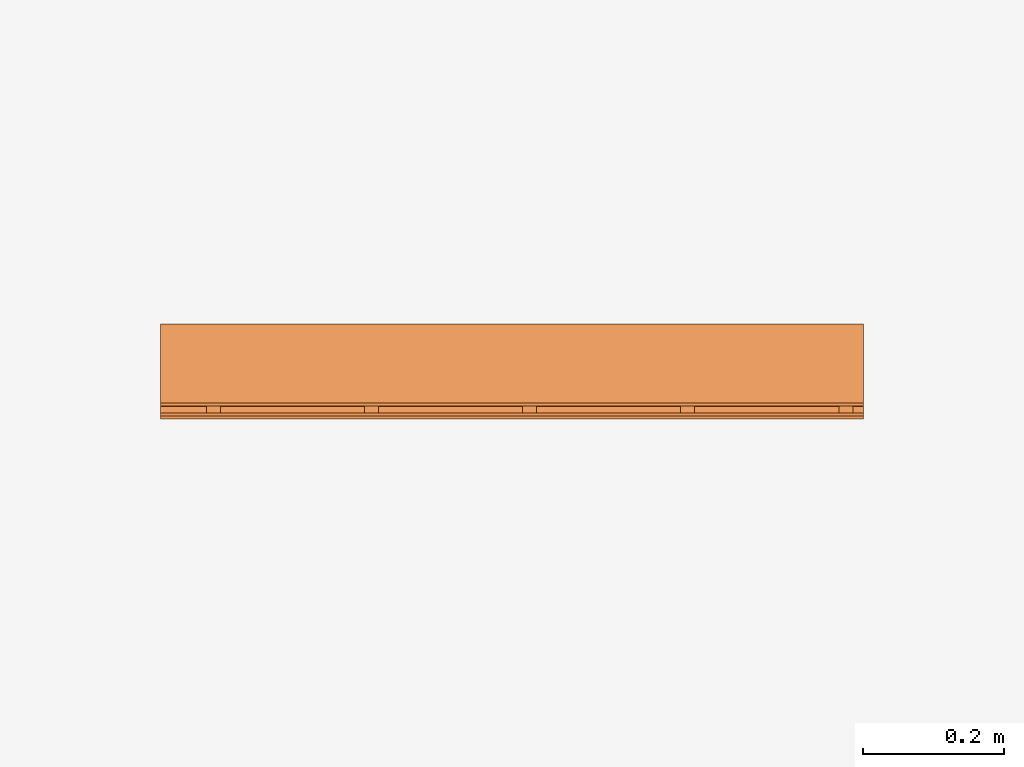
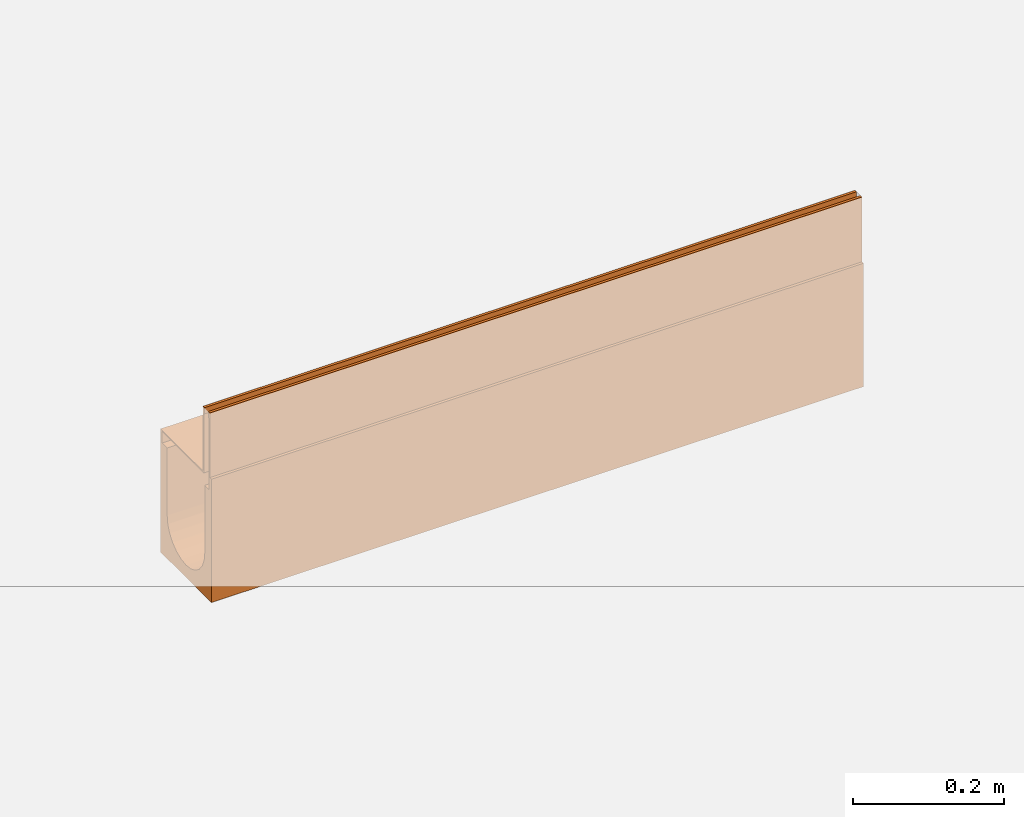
# One storey, part 2 of 2: 1 proxy.
"""IFC2X3 building model written with IfcOpenShell, lengths in millimetres."""

from ifc_helpers import new_model, entity, si_unit, converted_unit, direction, frame, origin, place, context, subcontext, project, spatial, faceted_brep, source, transform, mapped, material, material_list, element, save


model = new_model("IFC2X3")

# Units and contexts
model_context = context("Model", 3, precision=1e-06, world=origin(), true_north=direction((2.0, 6.12303176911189e-17, 1.0)))
context_of_model = context(None, 3, precision=1e-06, world=origin(), true_north=direction((2.0, 6.12303176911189e-17, 1.0)))
body_context = subcontext(model_context, "Body", "Model", "MODEL_VIEW")
ifc_project = project(units=[si_unit("LENGTHUNIT", "METRE", prefix="MILLI"), si_unit("AREAUNIT", "SQUARE_METRE", prefix="MILLI"), si_unit("VOLUMEUNIT", "CUBIC_METRE", prefix="MILLI"), converted_unit("PLANEANGLEUNIT", "DEGREE", entity("IfcRatioMeasure", 0.0174532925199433), si_unit("PLANEANGLEUNIT", "RADIAN"), dimensions=[0, 0, 0, 0, 0, 0, 0]), si_unit("TIMEUNIT", "SECOND")], contexts=[model_context, context_of_model])

# Site, building, storey
site_placement = place(None, origin())
site = spatial("IfcSite", under=ifc_project, at=site_placement, Name="Default", CompositionType="ELEMENT")
building_placement = place(site_placement, origin())
building = spatial("IfcBuilding", under=site, at=building_placement, CompositionType="ELEMENT")
storey_placement = place(building_placement, origin())
storey = spatial("IfcBuildingStorey", under=building, at=storey_placement, Name="Level 1", CompositionType="ELEMENT", Elevation=0.0)

# Proxy
ifc_material_1 = material(Name="Steel, Galvanized")
ifc_material_2 = material(Name="Vienite® Synthetic Resin Concrete")
ifc_material_list = material_list([ifc_material_1, ifc_material_2])
shared_shape = source(origin(), body_context, "Body", "Brep", [
    faceted_brep([(63.249999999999, 15.0, -107.0), (63.249999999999, 17.0, -109.0), (63.249999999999, 33.0, -109.0), (63.249999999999, 35.0, -107.0), (63.249999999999, 17.0, -123.499999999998), (63.249999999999, 15.0, -125.499999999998), (63.249999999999, 33.0, -123.499999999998), (63.249999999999, 35.0, -125.499999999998), (-61.250000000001, 15.0, -125.499999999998), (-61.250000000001, 17.0, -123.499999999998), (-61.250000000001, 33.0, -123.499999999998), (-61.250000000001, 35.0, -125.499999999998), (-61.250000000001, 17.0, -109.0), (-61.250000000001, 15.0, -107.0), (-61.250000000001, 33.0, -109.0), (-61.250000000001, 35.0, -107.0)], [[[0, 1, 2, 3]], [[4, 1, 0, 5]], [[3, 2, 6, 7]], [[6, 4, 5, 7]], [[8, 9, 10, 11]], [[12, 9, 8, 13]], [[11, 10, 14, 15]], [[14, 12, 13, 15]], [[5, 0, 13, 8]], [[7, 5, 8, 11]], [[3, 7, 11, 15]], [[0, 3, 15, 13]], [[1, 4, 9, 12]], [[14, 2, 1, 12]], [[6, 2, 14, 10]], [[9, 4, 6, 10]]]),
    faceted_brep([(-47.2500000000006, 0.0, -10.0), (-47.2500000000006, 0.0, -107.0), (-45.2500000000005, 0.0, -105.0), (-45.2500000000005, 0.0, 0.0), (-49.2500000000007, 0.0, 0.0), (-49.2500000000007, 0.0, -10.0), (63.2499999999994, 0.0, -107.0), (63.2499999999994, 0.0, -105.0), (-45.2500000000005, 1000.0, -105.0), (63.2499999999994, 1000.0, -105.0), (63.2499999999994, 1000.0, -107.0), (-47.2500000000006, 1000.0, -107.0), (-47.2500000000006, 1000.0, -10.0), (-45.2500000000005, 1000.0, 0.0), (-49.2500000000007, 1000.0, -10.0), (-49.2500000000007, 1000.0, 0.0)], [[[0, 1, 2, 3]], [[4, 5, 0, 3]], [[6, 7, 2, 1]], [[8, 9, 10, 11]], [[12, 13, 8, 11]], [[12, 14, 15, 13]], [[0, 5, 14, 12]], [[11, 1, 0, 12]], [[6, 1, 11, 10]], [[9, 7, 6, 10]], [[8, 2, 7, 9]], [[3, 2, 8, 13]], [[15, 4, 3, 13]], [[5, 4, 15, 14]]]),
    faceted_brep([(-59.2500000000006, 1000.0, 0.0), (-59.2500000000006, 1000.0, -10.0), (-61.2500000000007, 1000.0, -10.0), (-63.2500000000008, 1000.0, 0.0), (-63.2500000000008, 1000.0, -125.499999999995), (-61.2500000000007, 1000.0, -125.499999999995), (-61.2500000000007, 0.0, -10.0), (-63.2500000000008, 0.0, 0.0), (-63.2500000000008, 0.0, -125.499999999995), (-61.2500000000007, 0.0, -125.499999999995), (-59.2500000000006, 0.0, 0.0), (-59.2500000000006, 0.0, -10.0)], [[[0, 1, 2, 3]], [[4, 3, 2, 5]], [[6, 7, 8, 9]], [[10, 7, 6, 11]], [[9, 8, 4, 5]], [[6, 9, 5, 2]], [[11, 6, 2, 1]], [[10, 11, 1, 0]], [[3, 7, 10, 0]], [[4, 8, 7, 3]]]),
    faceted_brep([(63.2499999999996, 465.0, -107.0), (63.2499999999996, 467.0, -109.0), (63.2499999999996, 483.0, -109.0), (63.2499999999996, 485.0, -107.0), (63.2499999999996, 467.0, -123.499999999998), (63.2499999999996, 465.0, -125.499999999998), (63.2499999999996, 483.0, -123.499999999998), (63.2499999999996, 485.0, -125.499999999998), (-61.2500000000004, 465.0, -125.499999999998), (-61.2500000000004, 467.0, -123.499999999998), (-61.2500000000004, 483.0, -123.499999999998), (-61.2500000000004, 485.0, -125.499999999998), (-61.2500000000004, 467.0, -109.0), (-61.2500000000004, 465.0, -107.0), (-61.2500000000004, 483.0, -109.0), (-61.2500000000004, 485.0, -107.0)], [[[0, 1, 2, 3]], [[4, 1, 0, 5]], [[3, 2, 6, 7]], [[6, 4, 5, 7]], [[8, 9, 10, 11]], [[12, 9, 8, 13]], [[11, 10, 14, 15]], [[14, 12, 13, 15]], [[5, 0, 13, 8]], [[7, 5, 8, 11]], [[3, 7, 11, 15]], [[0, 3, 15, 13]], [[1, 4, 9, 12]], [[2, 1, 12, 14]], [[6, 2, 14, 10]], [[4, 6, 10, 9]]]),
    faceted_brep([(63.2499999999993, 240.0, -107.0), (63.2499999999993, 242.0, -109.0), (63.2499999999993, 258.0, -109.0), (63.2499999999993, 260.0, -107.0), (63.2499999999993, 242.0, -123.499999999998), (63.2499999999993, 240.0, -125.499999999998), (63.2499999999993, 258.0, -123.499999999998), (63.2499999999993, 260.0, -125.499999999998), (-61.2500000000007, 240.0, -125.499999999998), (-61.2500000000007, 242.0, -123.499999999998), (-61.2500000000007, 258.0, -123.499999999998), (-61.2500000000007, 260.0, -125.499999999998), (-61.2500000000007, 242.0, -109.0), (-61.2500000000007, 240.0, -107.0), (-61.2500000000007, 258.0, -109.0), (-61.2500000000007, 260.0, -107.0)], [[[0, 1, 2, 3]], [[4, 1, 0, 5]], [[3, 2, 6, 7]], [[6, 4, 5, 7]], [[8, 9, 10, 11]], [[12, 9, 8, 13]], [[11, 10, 14, 15]], [[14, 12, 13, 15]], [[5, 0, 13, 8]], [[7, 5, 8, 11]], [[3, 7, 11, 15]], [[0, 3, 15, 13]], [[1, 4, 9, 12]], [[2, 1, 12, 14]], [[6, 2, 14, 10]], [[4, 6, 10, 9]]]),
    faceted_brep([(63.2500000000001, 915.0, -107.0), (63.2500000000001, 917.0, -109.0), (63.2500000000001, 933.0, -109.0), (63.2500000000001, 935.0, -107.0), (63.2500000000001, 917.0, -123.499999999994), (63.2500000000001, 915.0, -125.499999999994), (63.2500000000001, 933.0, -123.499999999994), (63.2500000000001, 935.0, -125.499999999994), (-61.2499999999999, 915.0, -125.499999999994), (-61.2499999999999, 917.0, -123.499999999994), (-61.2499999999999, 933.0, -123.499999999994), (-61.2499999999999, 935.0, -125.499999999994), (-61.2499999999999, 917.0, -109.0), (-61.2499999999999, 915.0, -107.0), (-61.2499999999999, 933.0, -109.0), (-61.2499999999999, 935.0, -107.0)], [[[0, 1, 2, 3]], [[4, 1, 0, 5]], [[3, 2, 6, 7]], [[6, 4, 5, 7]], [[8, 9, 10, 11]], [[12, 9, 8, 13]], [[11, 10, 14, 15]], [[14, 12, 13, 15]], [[5, 0, 13, 8]], [[11, 7, 5, 8]], [[3, 7, 11, 15]], [[13, 0, 3, 15]], [[1, 4, 9, 12]], [[2, 1, 12, 14]], [[6, 2, 14, 10]], [[4, 6, 10, 9]]]),
    faceted_brep([(63.2499999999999, 690.0, -107.0), (63.2499999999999, 692.0, -109.0), (63.2499999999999, 708.0, -109.0), (63.2499999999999, 710.0, -107.0), (63.2499999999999, 692.0, -123.499999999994), (63.2499999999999, 690.0, -125.499999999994), (63.2499999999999, 708.0, -123.499999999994), (63.2499999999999, 710.0, -125.499999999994), (-61.2500000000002, 690.0, -125.499999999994), (-61.2500000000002, 692.0, -123.499999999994), (-61.2500000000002, 708.0, -123.499999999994), (-61.2500000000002, 710.0, -125.499999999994), (-61.2500000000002, 692.0, -109.0), (-61.2500000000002, 690.0, -107.0), (-61.2500000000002, 708.0, -109.0), (-61.2500000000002, 710.0, -107.0)], [[[0, 1, 2, 3]], [[4, 1, 0, 5]], [[3, 2, 6, 7]], [[6, 4, 5, 7]], [[8, 9, 10, 11]], [[12, 9, 8, 13]], [[11, 10, 14, 15]], [[14, 12, 13, 15]], [[5, 0, 13, 8]], [[11, 7, 5, 8]], [[3, 7, 11, 15]], [[13, 0, 3, 15]], [[1, 4, 9, 12]], [[2, 1, 12, 14]], [[6, 2, 14, 10]], [[4, 6, 10, 9]]]),
    faceted_brep([(63.2499999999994, 1000.0, -125.500000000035), (63.2499999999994, 1000.0, -105.0), (67.5000000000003, 1000.0, -105.0), (67.5000000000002, 1000.0, -305.0), (50.0, 1000.0, -235.0), (50.0, 1000.0, -125.500000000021), (48.2962913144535, 1000.0, -247.940952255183), (-67.4999999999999, 1000.0, -105.0), (-63.2499999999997, 1000.0, -105.0), (-63.2500000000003, 1000.0, -125.500000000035), (-67.4999999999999, 1000.0, -305.0), (-50.0, 1000.0, -125.500000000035), (-50.0, 1000.0, -235.0), (35.3553390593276, 1000.0, -270.355339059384), (43.3012701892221, 1000.0, -260.0), (25.0, 1000.0, -278.301270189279), (0.0, 1000.0, -285.0), (12.9409522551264, 1000.0, -283.296291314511), (-43.3012701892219, 1000.0, -260.0), (-35.3553390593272, 1000.0, -270.355339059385), (-48.2962913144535, 1000.0, -247.940952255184), (-25.0, 1000.0, -278.301270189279), (-12.9409522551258, 1000.0, -283.296291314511), (67.5000000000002, 0.0, -305.0), (12.9409522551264, 0.0, -283.296291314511), (0.0, 0.0, -285.0), (25.0, 0.0, -278.301270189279), (35.3553390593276, 0.0, -270.355339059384), (43.3012701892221, 0.0, -260.0), (48.2962913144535, 0.0, -247.940952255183), (-12.9409522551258, 0.0, -283.296291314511), (-67.4999999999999, 0.0, -305.0), (-25.0, 0.0, -278.301270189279), (-35.3553390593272, 0.0, -270.355339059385), (-43.3012701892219, 0.0, -260.0), (-48.2962913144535, 0.0, -247.940952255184), (50.0, 0.0, -235.0), (63.2499999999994, 0.0, -125.500000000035), (50.0, 0.0, -125.500000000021), (67.5000000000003, 0.0, -105.0), (63.2499999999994, 0.0, -105.0), (-50.0, 0.0, -235.0), (-50.0, 0.0, -125.500000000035), (-63.2500000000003, 0.0, -125.500000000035), (-63.2499999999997, 0.0, -105.0), (-67.4999999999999, 0.0, -105.0), (-14.2350474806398, 46.8740795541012, -305.0), (0.0, 45.0, -305.0), (-27.5000000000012, 52.3686027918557, -305.0), (-53.1259204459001, 85.764952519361, -305.0), (-47.6313972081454, 72.4999999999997, -305.0), (-38.8908729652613, 61.1091270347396, -305.0), (-55.0, 100.0, -305.0), (14.2350474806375, 46.8740795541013, -305.0), (27.4999999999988, 52.368602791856, -305.0), (38.8908729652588, 61.1091270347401, -305.0), (47.6313972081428, 72.5000000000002, -305.0), (53.1259204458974, 85.7649525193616, -305.0), (55.0, 100.0, -305.0), (-53.1259204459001, 114.235047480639, -305.0), (-47.6313972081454, 127.5, -305.0), (-38.8908729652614, 138.89087296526, -305.0), (-27.5000000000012, 147.631397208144, -305.0), (-14.2350474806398, 153.125920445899, -305.0), (0.0, 155.0, -305.0), (47.6313972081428, 127.5, -305.0), (38.8908729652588, 138.89087296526, -305.0), (53.1259204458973, 114.235047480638, -305.0), (14.2350474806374, 153.125920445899, -305.0), (27.4999999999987, 147.631397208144, -305.0), (50.0, 506.19841967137, -235.0), (46.1939766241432, 500.0, -254.134171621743), (49.0497740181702, 358.621493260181, -244.701529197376), (49.0264357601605, 678.388895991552, -244.818787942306), (-6.52630961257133, 292.558308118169, -284.572243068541), (-19.1341716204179, 500.0, -281.193976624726), (19.134171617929, 641.496825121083, -281.193976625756), (19.1341716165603, 292.558308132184, -281.193976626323), (30.4380714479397, 500.0, -274.667667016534), (39.6676670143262, 707.441691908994, -265.4380714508), (39.6676670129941, 358.503174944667, -265.438071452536), (6.52630961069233, 500.0, -284.572243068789), (-30.4380714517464, 358.503174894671, -274.667667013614), (-6.52630961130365, 641.496825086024, -284.572243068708), (-49.0392640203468, 359.812526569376, -244.754516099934), (-49.0392640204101, 677.664550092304, -244.754516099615), (-50.0, 500.0, -235.0), (-30.4380714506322, 707.441691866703, -274.667667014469), (-46.193976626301, 500.0, -254.134171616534), (-39.6676670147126, 641.496825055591, -265.438071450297), (-39.6676670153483, 292.55830810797, -265.438071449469), (-27.5000000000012, 147.631397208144, -295.0), (-14.2350474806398, 153.125920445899, -295.0), (0.0, 155.0, -295.0), (14.2350474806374, 153.125920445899, -295.0), (-38.8908729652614, 138.89087296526, -295.0), (-47.6313972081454, 127.5, -295.0), (-55.0, 100.0, -295.0), (-53.1259204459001, 114.235047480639, -295.0), (47.6313972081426, 72.4999999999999, -295.0), (27.4999999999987, 147.631397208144, -295.0), (53.1259204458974, 114.235047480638, -295.0), (55.0, 100.0, -295.0), (47.6313972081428, 127.5, -295.0), (38.8908729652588, 138.89087296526, -295.0), (-47.6313972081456, 72.5, -295.0), (-27.5000000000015, 52.3686027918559, -295.0), (-38.8908729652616, 61.1091270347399, -295.0), (0.0, 45.0, -295.0), (-14.2350474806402, 46.8740795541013, -295.0), (38.8908729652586, 61.1091270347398, -295.0), (53.1259204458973, 85.7649525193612, -295.0), (27.4999999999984, 52.3686027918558, -295.0), (14.2350474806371, 46.8740795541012, -295.0), (-53.1259204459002, 85.7649525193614, -295.0)], [[[0, 1, 2, 3]], [[4, 5, 0, 3]], [[4, 3, 6]], [[7, 8, 9, 10]], [[9, 11, 12, 10]], [[13, 14, 3]], [[15, 13, 3]], [[16, 17, 3, 10]], [[3, 17, 15]], [[14, 6, 3]], [[18, 19, 10]], [[20, 18, 10]], [[21, 22, 10]], [[10, 22, 16]], [[21, 10, 19]], [[20, 10, 12]], [[23, 24, 25]], [[24, 23, 26]], [[27, 26, 23]], [[28, 27, 23]], [[23, 29, 28]], [[25, 30, 31, 23]], [[31, 30, 32]], [[33, 34, 31]], [[32, 33, 31]], [[31, 34, 35]], [[29, 23, 36]], [[37, 38, 36, 23]], [[39, 40, 37, 23]], [[41, 42, 43, 31]], [[43, 44, 45, 31]], [[41, 31, 35]], [[8, 44, 43, 9]], [[7, 45, 44, 8]], [[31, 45, 7, 10]], [[31, 46, 47, 23]], [[46, 31, 48]], [[49, 50, 31]], [[51, 48, 31]], [[50, 51, 31]], [[31, 52, 49]], [[23, 53, 54]], [[53, 23, 47]], [[23, 54, 55]], [[55, 56, 23]], [[57, 58, 23]], [[56, 57, 23]], [[23, 58, 3]], [[10, 59, 52, 31]], [[60, 59, 10]], [[61, 10, 62]], [[10, 61, 60]], [[63, 62, 10]], [[64, 63, 10, 3]], [[65, 66, 3]], [[67, 65, 3]], [[68, 64, 3]], [[69, 3, 66]], [[3, 69, 68]], [[67, 3, 58]], [[2, 39, 23, 3]], [[1, 40, 39, 2]], [[37, 40, 1, 0]], [[5, 38, 37, 0]], [[4, 70, 38, 5]], [[71, 72, 73]], [[30, 74, 75]], [[76, 77, 78]], [[71, 73, 6]], [[26, 27, 78]], [[13, 78, 79]], [[80, 78, 27]], [[80, 28, 71]], [[24, 77, 81]], [[77, 24, 26]], [[72, 29, 36]], [[73, 70, 4]], [[77, 76, 81]], [[71, 28, 29]], [[15, 17, 76]], [[79, 14, 13]], [[82, 33, 32]], [[80, 71, 79]], [[15, 76, 78]], [[24, 81, 25]], [[17, 16, 81]], [[15, 78, 13]], [[74, 83, 75]], [[83, 74, 81]], [[32, 30, 75]], [[84, 85, 86, 41]], [[19, 87, 21]], [[82, 32, 75]], [[35, 34, 88]], [[83, 22, 75]], [[25, 81, 74]], [[89, 88, 90]], [[90, 34, 33]], [[30, 25, 74]], [[22, 83, 16]], [[20, 12, 85]], [[83, 81, 16]], [[80, 27, 28]], [[87, 82, 75]], [[26, 78, 77]], [[18, 88, 89]], [[89, 19, 18]], [[14, 71, 6]], [[20, 85, 88]], [[20, 88, 18]], [[76, 17, 81]], [[19, 89, 87]], [[90, 33, 82]], [[21, 75, 22]], [[21, 87, 75]], [[82, 87, 89, 90]], [[34, 90, 88]], [[14, 79, 71]], [[80, 79, 78]], [[6, 73, 4]], [[70, 73, 72]], [[70, 72, 36]], [[72, 71, 29]], [[88, 85, 84]], [[86, 85, 12]], [[84, 35, 88]], [[35, 84, 41]], [[42, 41, 86, 12]], [[12, 11, 42]], [[43, 42, 11, 9]], [[91, 92, 93, 94]], [[95, 91, 94, 96]], [[97, 98, 96, 99]], [[99, 96, 94, 100]], [[101, 102, 100, 103]], [[104, 103, 100]], [[105, 97, 99, 106]], [[107, 105, 106]], [[108, 109, 106, 110]], [[102, 111, 99, 100]], [[108, 110, 112, 113]], [[106, 99, 110]], [[114, 97, 105]], [[101, 67, 58, 102]], [[103, 65, 67, 101]], [[100, 69, 66, 104]], [[104, 66, 65, 103]], [[94, 68, 69, 100]], [[68, 94, 93, 64]], [[92, 63, 64, 93]], [[91, 62, 63, 92]], [[96, 60, 61, 95]], [[95, 61, 62, 91]], [[98, 59, 60, 96]], [[59, 98, 97, 52]], [[114, 49, 52, 97]], [[105, 50, 49, 114]], [[106, 48, 51, 107]], [[107, 51, 50, 105]], [[109, 46, 48, 106]], [[46, 109, 108, 47]], [[113, 53, 47, 108]], [[112, 54, 53, 113]], [[99, 56, 55, 110]], [[110, 55, 54, 112]], [[111, 57, 56, 99]], [[57, 111, 102, 58]], [[38, 70, 36]]]),
])
proxy_placement = place(storey_placement, frame((143.656586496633, 99.9218925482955, 0.0), z_axis=(0.0, 0.0, 1.0), x_axis=(0.0, 1.0, 0.0)))
element("IfcBuildingElementProxy", 1, at=proxy_placement, inside=storey, material=ifc_material_list, Name="Civil-Drainage-Channel-ACO-MultiDrain-M100D-Brickslot-Channel-System:23100 - No 10.0 Constant Depth Channel - 1000mm LG - Invert Depth 180mm:23100 - No 10.0 Constant Depth Channel - 1000mm LG - Invert Depth 180mm", ObjectType="23100 - No 10.0 Constant Depth Channel - 1000mm LG - Invert Depth 180mm", CompositionType="ELEMENT", context=body_context, shape_type="MappedRepresentation", body=[
    mapped(shared_shape, transform((0.0, 0.0, 0.0), scale=1.0)),
])

save(model, "model.ifc")
